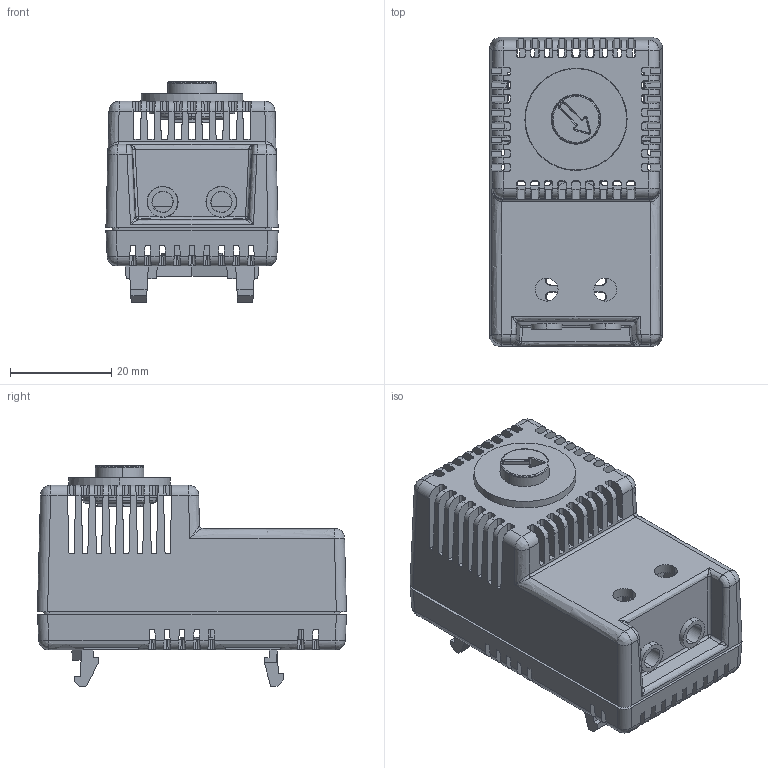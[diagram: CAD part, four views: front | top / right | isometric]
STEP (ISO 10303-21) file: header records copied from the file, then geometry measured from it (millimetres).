
FILE_DESCRIPTION(/* description */ (''),/* implementation_level */ '2;1');
FILE_NAME(/* name */ 'THR1-THR2-THR3',/* time_stamp */ '2014-05-28T17:32:45+02:00',/* author */ (''),/* organization */ (''),/* preprocessor_version */ 'ST-DEVELOPER v10',/* originating_system */ '',/* authorisation */ '');
FILE_SCHEMA (('CONFIG_CONTROL_DESIGN'));
Length unit declared in the file: millimetre
Products named in the file (1): 1
Bounding box: 34 x 61 x 43.6 mm (x, y, z)
Volume: 5038.2 mm3; surface area: 22829 mm2
Topology: 2 solids, 3 shells, 1010 faces, 3338 edges, 2175 vertices
Faces by surface type: plane 591, bspline 419
Entity records: 37421 total; most frequent: CARTESIAN_POINT 17621, ORIENTED_EDGE 6618, EDGE_CURVE 3320, B_SPLINE_CURVE_WITH_KNOTS 2609, VERTEX_POINT 2175, EDGE_LOOP 1095, ADVANCED_FACE 1010, FACE_OUTER_BOUND 1010
